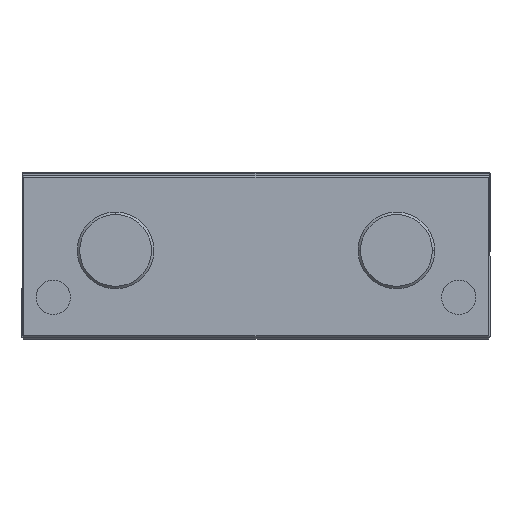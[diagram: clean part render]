
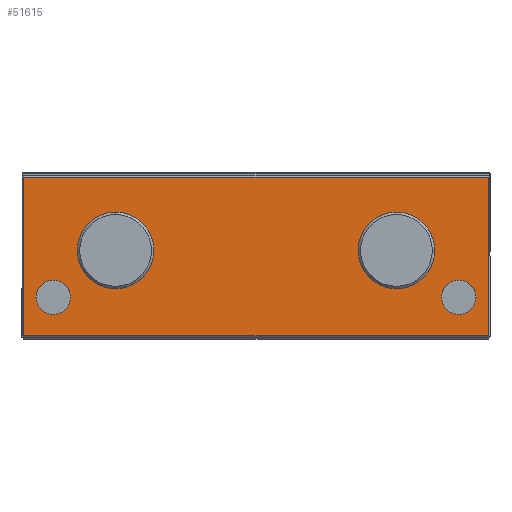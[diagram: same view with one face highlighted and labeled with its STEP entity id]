
A CAD part, top view. The second image highlights one B-rep face of the part: STEP entity #51615.
In plain terms, the highlighted planar face has unit normal (0, 0, 1).
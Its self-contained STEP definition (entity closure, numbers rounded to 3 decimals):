
#42 = AXIS2_PLACEMENT_3D ( 'NONE', #3969, #32267, #8044 ) ;
#167 = DIRECTION ( 'NONE',  ( 0., 0., -1. ) ) ;
#435 = CARTESIAN_POINT ( 'NONE',  ( 57.3, 28., 290. ) ) ;
#589 = EDGE_CURVE ( 'NONE', #6975, #51170, #52120, .T. ) ;
#596 = ORIENTED_EDGE ( 'NONE', *, *, #12915, .T. ) ;
#1238 = EDGE_CURVE ( 'NONE', #32012, #38900, #29636, .T. ) ;
#1652 = DIRECTION ( 'NONE',  ( 0., 1., 0. ) ) ;
#2307 = DIRECTION ( 'NONE',  ( -1., 0., 0. ) ) ;
#2531 = DIRECTION ( 'NONE',  ( -1., 0., 0. ) ) ;
#2803 = ORIENTED_EDGE ( 'NONE', *, *, #589, .T. ) ;
#3143 = DIRECTION ( 'NONE',  ( -1., 0., 0. ) ) ;
#3657 = DIRECTION ( 'NONE',  ( -1., 0., 0. ) ) ;
#3969 = CARTESIAN_POINT ( 'NONE',  ( 45., 28., 290. ) ) ;
#4924 = LINE ( 'NONE', #15714, #45620 ) ;
#5386 = EDGE_LOOP ( 'NONE', ( #596, #2803 ) ) ;
#5907 = CARTESIAN_POINT ( 'NONE',  ( -57.3, 28., 290. ) ) ;
#6444 = PLANE ( 'NONE',  #35489 ) ;
#6515 = FACE_OUTER_BOUND ( 'NONE', #8949, .T. ) ;
#6975 = VERTEX_POINT ( 'NONE', #435 ) ;
#7019 = AXIS2_PLACEMENT_3D ( 'NONE', #51924, #27347, #3143 ) ;
#8044 = DIRECTION ( 'NONE',  ( -1., 0., 0. ) ) ;
#8227 = LINE ( 'NONE', #50614, #40542 ) ;
#8949 = EDGE_LOOP ( 'NONE', ( #10931, #14699, #51528, #21553 ) ) ;
#9390 = VECTOR ( 'NONE', #43485, 1000. ) ;
#10224 = EDGE_CURVE ( 'NONE', #38900, #32012, #36967, .T. ) ;
#10931 = ORIENTED_EDGE ( 'NONE', *, *, #30233, .T. ) ;
#11516 = VERTEX_POINT ( 'NONE', #28556 ) ;
#11812 = VECTOR ( 'NONE', #1652, 1000. ) ;
#11880 = DIRECTION ( 'NONE',  ( 0., 0., -1. ) ) ;
#12039 = ORIENTED_EDGE ( 'NONE', *, *, #49471, .T. ) ;
#12914 = CIRCLE ( 'NONE', #21488, 5.5 ) ;
#12915 = EDGE_CURVE ( 'NONE', #51170, #6975, #29950, .T. ) ;
#13817 = CARTESIAN_POINT ( 'NONE',  ( 59.5, 13., 290. ) ) ;
#14699 = ORIENTED_EDGE ( 'NONE', *, *, #41144, .T. ) ;
#15162 = AXIS2_PLACEMENT_3D ( 'NONE', #18695, #47264, #22765 ) ;
#15714 = CARTESIAN_POINT ( 'NONE',  ( 75., 0.6, 290. ) ) ;
#17204 = FACE_BOUND ( 'NONE', #5386, .T. ) ;
#17413 = VERTEX_POINT ( 'NONE', #52511 ) ;
#18403 = CIRCLE ( 'NONE', #15162, 5.5 ) ;
#18434 = AXIS2_PLACEMENT_3D ( 'NONE', #51060, #26504, #2307 ) ;
#18559 = CARTESIAN_POINT ( 'NONE',  ( -75., 0., 290. ) ) ;
#18695 = CARTESIAN_POINT ( 'NONE',  ( 65., 13., 290. ) ) ;
#20091 = LINE ( 'NONE', #22934, #9390 ) ;
#20683 = CIRCLE ( 'NONE', #51234, 5.5 ) ;
#21205 = ORIENTED_EDGE ( 'NONE', *, *, #38346, .T. ) ;
#21258 = CARTESIAN_POINT ( 'NONE',  ( 65., 13., 290. ) ) ;
#21488 = AXIS2_PLACEMENT_3D ( 'NONE', #36118, #11880, #40232 ) ;
#21553 = ORIENTED_EDGE ( 'NONE', *, *, #46679, .T. ) ;
#21650 = EDGE_LOOP ( 'NONE', ( #12039, #46385 ) ) ;
#22765 = DIRECTION ( 'NONE',  ( -1., 0., 0. ) ) ;
#22790 = VERTEX_POINT ( 'NONE', #37302 ) ;
#22842 = AXIS2_PLACEMENT_3D ( 'NONE', #52427, #27862, #3657 ) ;
#22934 = CARTESIAN_POINT ( 'NONE',  ( -75., 51.4, 290. ) ) ;
#24017 = CIRCLE ( 'NONE', #7019, 5.5 ) ;
#24081 = VERTEX_POINT ( 'NONE', #13817 ) ;
#24356 = CARTESIAN_POINT ( 'NONE',  ( -45., 28., 290. ) ) ;
#24385 = VERTEX_POINT ( 'NONE', #48748 ) ;
#25354 = DIRECTION ( 'NONE',  ( -1., 0., 0. ) ) ;
#26052 = DIRECTION ( 'NONE',  ( 0., -1., 0. ) ) ;
#26504 = DIRECTION ( 'NONE',  ( 0., 0., -1. ) ) ;
#26726 = DIRECTION ( 'NONE',  ( 0., 0., -1. ) ) ;
#26852 = EDGE_CURVE ( 'NONE', #17413, #37346, #24017, .T. ) ;
#27347 = DIRECTION ( 'NONE',  ( 0., 0., -1. ) ) ;
#27862 = DIRECTION ( 'NONE',  ( 0., 0., -1. ) ) ;
#28459 = DIRECTION ( 'NONE',  ( -1., 0., 0. ) ) ;
#28556 = CARTESIAN_POINT ( 'NONE',  ( -74.4, 0.6, 290. ) ) ;
#29304 = FACE_BOUND ( 'NONE', #47414, .T. ) ;
#29636 = CIRCLE ( 'NONE', #22842, 12.3 ) ;
#29950 = CIRCLE ( 'NONE', #42, 12.3 ) ;
#30233 = EDGE_CURVE ( 'NONE', #38581, #22790, #20091, .T. ) ;
#32012 = VERTEX_POINT ( 'NONE', #43048 ) ;
#32267 = DIRECTION ( 'NONE',  ( 0., 0., -1. ) ) ;
#32749 = CARTESIAN_POINT ( 'NONE',  ( -70.5, 13., 290. ) ) ;
#35489 = AXIS2_PLACEMENT_3D ( 'NONE', #18559, #26726, #2531 ) ;
#36118 = CARTESIAN_POINT ( 'NONE',  ( -65., 13., 290. ) ) ;
#36967 = CIRCLE ( 'NONE', #41414, 12.3 ) ;
#37302 = CARTESIAN_POINT ( 'NONE',  ( -74.4, 51.4, 290. ) ) ;
#37346 = VERTEX_POINT ( 'NONE', #32749 ) ;
#37447 = CARTESIAN_POINT ( 'NONE',  ( 74.4, 51.4, 290. ) ) ;
#38346 = EDGE_CURVE ( 'NONE', #24081, #24385, #18403, .T. ) ;
#38581 = VERTEX_POINT ( 'NONE', #37447 ) ;
#38778 = FACE_BOUND ( 'NONE', #21650, .T. ) ;
#38900 = VERTEX_POINT ( 'NONE', #5907 ) ;
#39629 = CARTESIAN_POINT ( 'NONE',  ( 74.4, 0.6, 290. ) ) ;
#40012 = DIRECTION ( 'NONE',  ( 1., 0., 0. ) ) ;
#40232 = DIRECTION ( 'NONE',  ( -1., 0., 0. ) ) ;
#40542 = VECTOR ( 'NONE', #26052, 1000. ) ;
#41144 = EDGE_CURVE ( 'NONE', #22790, #11516, #8227, .T. ) ;
#41414 = AXIS2_PLACEMENT_3D ( 'NONE', #24356, #167, #28459 ) ;
#41809 = ORIENTED_EDGE ( 'NONE', *, *, #10224, .T. ) ;
#43048 = CARTESIAN_POINT ( 'NONE',  ( -32.7, 28., 290. ) ) ;
#43485 = DIRECTION ( 'NONE',  ( -1., 0., 0. ) ) ;
#43649 = EDGE_CURVE ( 'NONE', #24385, #24081, #20683, .T. ) ;
#43937 = EDGE_CURVE ( 'NONE', #11516, #45970, #4924, .T. ) ;
#44181 = EDGE_LOOP ( 'NONE', ( #41809, #44767 ) ) ;
#44280 = LINE ( 'NONE', #46951, #11812 ) ;
#44767 = ORIENTED_EDGE ( 'NONE', *, *, #1238, .T. ) ;
#45620 = VECTOR ( 'NONE', #40012, 1000. ) ;
#45970 = VERTEX_POINT ( 'NONE', #39629 ) ;
#46385 = ORIENTED_EDGE ( 'NONE', *, *, #26852, .T. ) ;
#46679 = EDGE_CURVE ( 'NONE', #45970, #38581, #44280, .T. ) ;
#46951 = CARTESIAN_POINT ( 'NONE',  ( 74.4, 52., 290. ) ) ;
#47264 = DIRECTION ( 'NONE',  ( 0., 0., -1. ) ) ;
#47316 = ORIENTED_EDGE ( 'NONE', *, *, #43649, .T. ) ;
#47414 = EDGE_LOOP ( 'NONE', ( #21205, #47316 ) ) ;
#48523 = FACE_BOUND ( 'NONE', #44181, .T. ) ;
#48748 = CARTESIAN_POINT ( 'NONE',  ( 70.5, 13., 290. ) ) ;
#49471 = EDGE_CURVE ( 'NONE', #37346, #17413, #12914, .T. ) ;
#49891 = DIRECTION ( 'NONE',  ( 0., 0., -1. ) ) ;
#50614 = CARTESIAN_POINT ( 'NONE',  ( -74.4, 0., 290. ) ) ;
#51060 = CARTESIAN_POINT ( 'NONE',  ( 45., 28., 290. ) ) ;
#51170 = VERTEX_POINT ( 'NONE', #52834 ) ;
#51234 = AXIS2_PLACEMENT_3D ( 'NONE', #21258, #49891, #25354 ) ;
#51528 = ORIENTED_EDGE ( 'NONE', *, *, #43937, .T. ) ;
#51615 = ADVANCED_FACE ( 'NONE', ( #6515, #29304, #38778, #17204, #48523 ), #6444, .F. ) ;
#51924 = CARTESIAN_POINT ( 'NONE',  ( -65., 13., 290. ) ) ;
#52120 = CIRCLE ( 'NONE', #18434, 12.3 ) ;
#52427 = CARTESIAN_POINT ( 'NONE',  ( -45., 28., 290. ) ) ;
#52511 = CARTESIAN_POINT ( 'NONE',  ( -59.5, 13., 290. ) ) ;
#52834 = CARTESIAN_POINT ( 'NONE',  ( 32.7, 28., 290. ) ) ;
